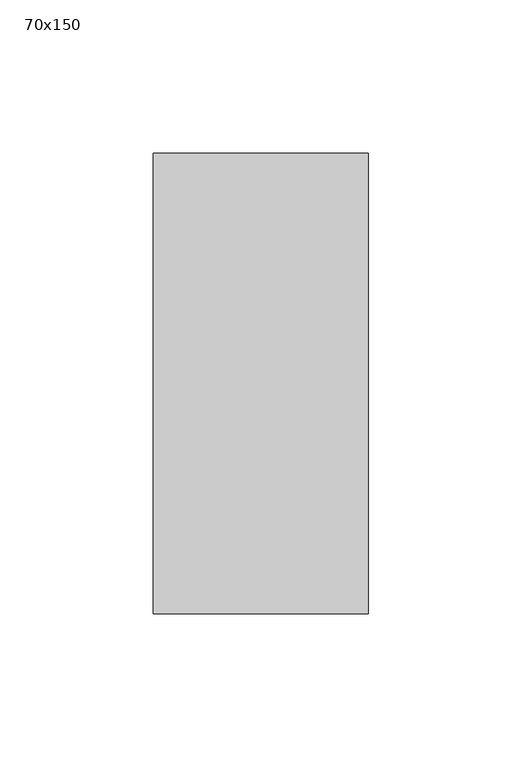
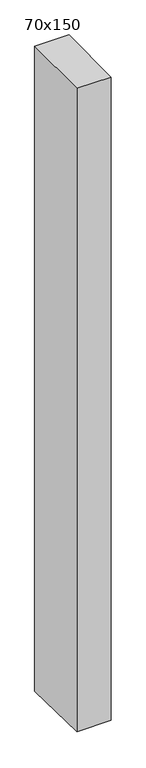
"""IFC4 building model written with IfcOpenShell, lengths in millimetres: member geometry, 長方形のマリオン : 70x150."""

from ifc_helpers import new_model, si_unit, frame, origin, place, context, project, spatial, polyline, outline, extrude, source, transform, mapped, element, save


def member_70x150_c1e71303(model_context):
    return source(origin(), model_context, "Body", "SweptSolid", [
        extrude(outline(polyline([(-75.0, -0.1992642), (75.0, 0.1992642), (75.0, -1396.820836), (-75.0, -1394.0424355), (-75.0, -0.1992642)])), frame((-70.0, 0.0, 0.0), z_axis=(1.0, 0.0, 0.0), x_axis=(0.0, 1.0, 0.0)), (0.0, 0.0, 1.0), 70.0),
    ])


if __name__ == "__main__":
    model = new_model("IFC4")
    model_context = context("Model", 3, world=origin())
    ifc_project = project(units=[si_unit("LENGTHUNIT", "METRE", prefix="MILLI")], contexts=[model_context])
    site = spatial("IfcSite", under=ifc_project)
    building = spatial("IfcBuilding", under=site)
    placement = place(None, origin())
    member_70x150_shape = member_70x150_c1e71303(model_context)
    element("IfcMember", 1, ObjectType="長方形のマリオン : 70x150", at=placement, inside=building, context=model_context, shape_type="MappedRepresentation", body=[
        mapped(member_70x150_shape, transform((0.0, 0.0, 0.0), x_axis=(1.0, 0.0, 0.0), y_axis=(0.0, 1.0, 0.0), z_axis=(0.0, 0.0, 1.0))),
    ])
    save(model, "model.ifc")
